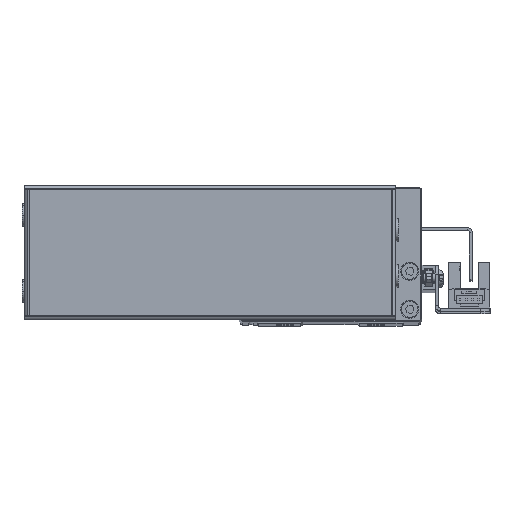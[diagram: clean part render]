
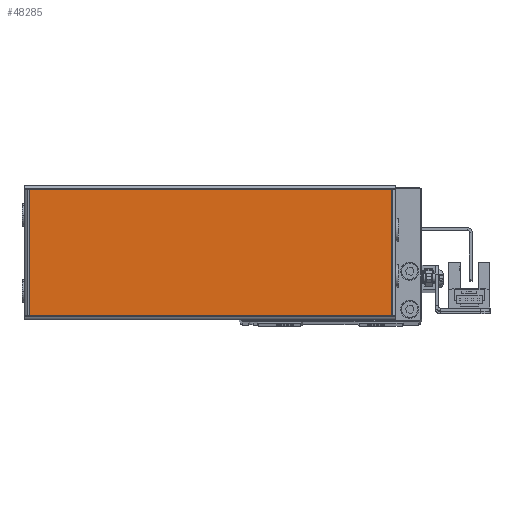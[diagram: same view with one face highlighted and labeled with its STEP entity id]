
A CAD part, top view. The second image highlights one B-rep face of the part: STEP entity #48285.
In plain terms, the highlighted planar face has unit normal (0, 0, 1) as drawn and (0, 0, -1) by its records, which use the part's own axes.
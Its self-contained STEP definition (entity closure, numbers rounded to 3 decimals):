
#534 = CARTESIAN_POINT ( 'NONE',  ( 0., 42.7, -1. ) ) ;
#700 = CARTESIAN_POINT ( 'NONE',  ( 122., 1.3, -1. ) ) ;
#7471 = DIRECTION ( 'NONE',  ( -1., 0., 0. ) ) ;
#7482 = CARTESIAN_POINT ( 'NONE',  ( 120.5, 42.7, -1. ) ) ;
#10683 = EDGE_CURVE ( 'NONE', #48015, #22630, #45338, .T. ) ;
#13325 = ORIENTED_EDGE ( 'NONE', *, *, #25277, .T. ) ;
#13616 = DIRECTION ( 'NONE',  ( 0., 1., 0. ) ) ;
#15572 = DIRECTION ( 'NONE',  ( -1., 0., 0. ) ) ;
#19089 = DIRECTION ( 'NONE',  ( 0., -1., 0. ) ) ;
#19265 = ORIENTED_EDGE ( 'NONE', *, *, #10683, .T. ) ;
#19426 = CARTESIAN_POINT ( 'NONE',  ( 1.5, 1.3, -1. ) ) ;
#22630 = VERTEX_POINT ( 'NONE', #61095 ) ;
#23388 = ORIENTED_EDGE ( 'NONE', *, *, #59982, .T. ) ;
#25277 = EDGE_CURVE ( 'NONE', #22630, #30375, #60403, .T. ) ;
#25348 = ORIENTED_EDGE ( 'NONE', *, *, #45244, .T. ) ;
#25637 = CARTESIAN_POINT ( 'NONE',  ( 120.5, 1.3, -1. ) ) ;
#26687 = CARTESIAN_POINT ( 'NONE',  ( 0., 0., -1. ) ) ;
#26877 = VECTOR ( 'NONE', #15572, 1000. ) ;
#27331 = VECTOR ( 'NONE', #19089, 1000. ) ;
#30375 = VERTEX_POINT ( 'NONE', #51700 ) ;
#30948 = VECTOR ( 'NONE', #35666, 1000. ) ;
#32291 = PLANE ( 'NONE',  #34601 ) ;
#32784 = EDGE_LOOP ( 'NONE', ( #13325, #23388, #25348, #19265 ) ) ;
#34601 = AXIS2_PLACEMENT_3D ( 'NONE', #26687, #61124, #7471 ) ;
#35666 = DIRECTION ( 'NONE',  ( 1., 0., 0. ) ) ;
#45244 = EDGE_CURVE ( 'NONE', #59657, #48015, #50891, .T. ) ;
#45338 = LINE ( 'NONE', #19426, #48469 ) ;
#48015 = VERTEX_POINT ( 'NONE', #54407 ) ;
#48285 = ADVANCED_FACE ( 'NONE', ( #49052 ), #32291, .T. ) ;
#48469 = VECTOR ( 'NONE', #13616, 1000. ) ;
#49052 = FACE_OUTER_BOUND ( 'NONE', #32784, .T. ) ;
#50891 = LINE ( 'NONE', #700, #26877 ) ;
#51700 = CARTESIAN_POINT ( 'NONE',  ( 120.5, 42.7, -1. ) ) ;
#54407 = CARTESIAN_POINT ( 'NONE',  ( 1.5, 1.3, -1. ) ) ;
#59657 = VERTEX_POINT ( 'NONE', #25637 ) ;
#59982 = EDGE_CURVE ( 'NONE', #30375, #59657, #63754, .T. ) ;
#60403 = LINE ( 'NONE', #534, #30948 ) ;
#61095 = CARTESIAN_POINT ( 'NONE',  ( 1.5, 42.7, -1. ) ) ;
#61124 = DIRECTION ( 'NONE',  ( 0., 0., -1. ) ) ;
#63754 = LINE ( 'NONE', #7482, #27331 ) ;
